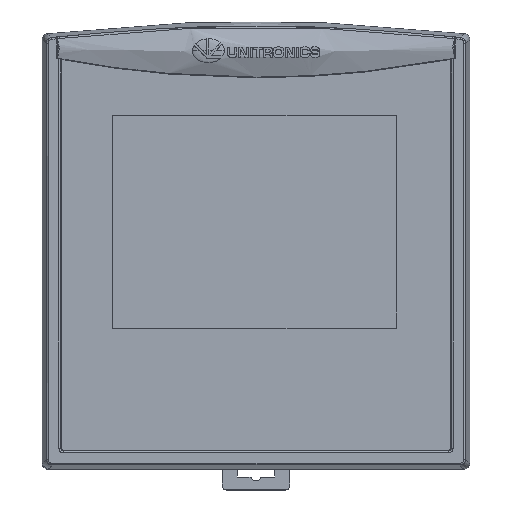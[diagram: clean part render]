
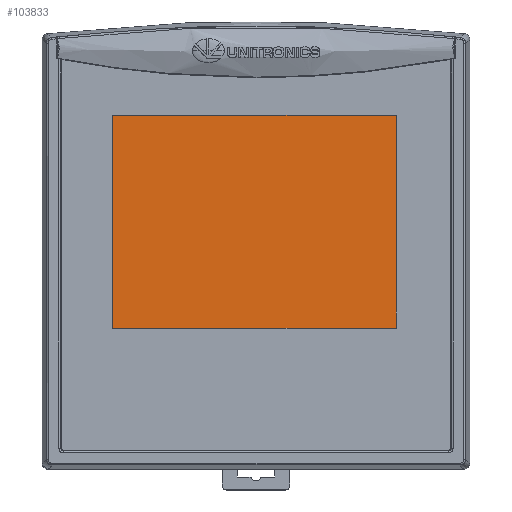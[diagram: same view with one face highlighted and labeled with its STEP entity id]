
A CAD part, top view. The second image highlights one B-rep face of the part: STEP entity #103833.
In plain terms, the highlighted planar face has unit normal (0, 0, 1).
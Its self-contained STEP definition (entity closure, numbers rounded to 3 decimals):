
#31917 = DIRECTION ( 'NONE',  ( 1., 0., 0. ) ) ;
#31918 = DIRECTION ( 'NONE',  ( 0., 0., 1. ) ) ;
#31920 = AXIS2_PLACEMENT_3D ( 'NONE', #31934, #31918, #31917 ) ;
#31934 = CARTESIAN_POINT ( 'NONE',  ( -86.791, -699.009, -25.902 ) ) ;
#31935 = PLANE ( 'NONE',  #31920 ) ;
#31941 = FACE_OUTER_BOUND ( 'NONE', #103862, .T. ) ;
#83120 = LINE ( 'NONE', #83177, #83176 ) ;
#83121 = DIRECTION ( 'NONE',  ( 0., -1., 0. ) ) ;
#83122 = VECTOR ( 'NONE', #83121, 1000. ) ;
#83123 = CARTESIAN_POINT ( 'NONE',  ( -86.791, -645.009, -25.902 ) ) ;
#83124 = LINE ( 'NONE', #83123, #83122 ) ;
#83130 = CARTESIAN_POINT ( 'NONE',  ( -14.791, -699.009, -25.902 ) ) ;
#83162 = CARTESIAN_POINT ( 'NONE',  ( -86.791, -699.009, -25.902 ) ) ;
#83163 = CARTESIAN_POINT ( 'NONE',  ( -86.791, -645.009, -25.902 ) ) ;
#83164 = CARTESIAN_POINT ( 'NONE',  ( -14.791, -645.009, -25.902 ) ) ;
#83165 = DIRECTION ( 'NONE',  ( 0., 1., 0. ) ) ;
#83166 = VECTOR ( 'NONE', #83165, 1000. ) ;
#83167 = CARTESIAN_POINT ( 'NONE',  ( -14.791, -645.009, -25.902 ) ) ;
#83168 = LINE ( 'NONE', #83167, #83166 ) ;
#83175 = DIRECTION ( 'NONE',  ( 1., 0., 0. ) ) ;
#83176 = VECTOR ( 'NONE', #83175, 1000. ) ;
#83177 = CARTESIAN_POINT ( 'NONE',  ( -86.791, -699.009, -25.902 ) ) ;
#83194 = DIRECTION ( 'NONE',  ( -1., 0., 0. ) ) ;
#83195 = VECTOR ( 'NONE', #83194, 1000. ) ;
#83196 = CARTESIAN_POINT ( 'NONE',  ( -86.791, -645.009, -25.902 ) ) ;
#83200 = LINE ( 'NONE', #83196, #83195 ) ;
#103833 = ADVANCED_FACE ( 'NONE', ( #31941 ), #31935, .T. ) ;
#103862 = EDGE_LOOP ( 'NONE', ( #117126, #117113, #117119, #117133 ) ) ;
#117111 = VERTEX_POINT ( 'NONE', #83130 ) ;
#117112 = EDGE_CURVE ( 'NONE', #117122, #117123, #83124, .T. ) ;
#117113 = ORIENTED_EDGE ( 'NONE', *, *, #117114, .T. ) ;
#117114 = EDGE_CURVE ( 'NONE', #117123, #117111, #83120, .T. ) ;
#117119 = ORIENTED_EDGE ( 'NONE', *, *, #117120, .T. ) ;
#117120 = EDGE_CURVE ( 'NONE', #117111, #117121, #83168, .T. ) ;
#117121 = VERTEX_POINT ( 'NONE', #83164 ) ;
#117122 = VERTEX_POINT ( 'NONE', #83163 ) ;
#117123 = VERTEX_POINT ( 'NONE', #83162 ) ;
#117126 = ORIENTED_EDGE ( 'NONE', *, *, #117112, .T. ) ;
#117133 = ORIENTED_EDGE ( 'NONE', *, *, #117134, .T. ) ;
#117134 = EDGE_CURVE ( 'NONE', #117121, #117122, #83200, .T. ) ;
